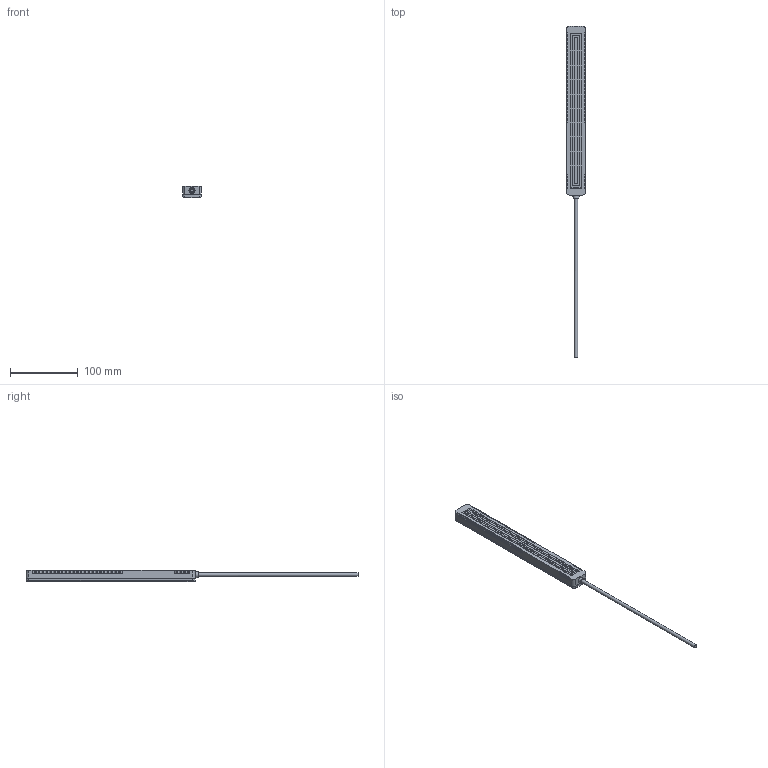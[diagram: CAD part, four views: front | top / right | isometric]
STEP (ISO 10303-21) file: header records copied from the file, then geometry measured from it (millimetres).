
FILE_DESCRIPTION( ( 'STEP AP203' ), '1' );
FILE_NAME( 'p:/temp/worker_204/temp/exporttempdir_2336_267_TEhcx/format_4/KQ1001.stp', '2019-12-02T10:32:10', ( '' ), ( '' ), ' ', 'PARTsolutions', ' ' );
FILE_SCHEMA( ( 'CONFIG_CONTROL_DESIGN' ) );
Length unit declared in the file: millimetre
Products named in the file (1): _KQ1001
Bounding box: 28 x 490.1 x 16.7 mm (x, y, z)
Volume: 116946.5 mm3; surface area: 29037.3 mm2
Topology: 1 solids, 1 shells, 1059 faces, 2844 edges, 1896 vertices
Faces by surface type: plane 873, cylinder 182, torus 2, cone 1, sphere 1
Full cylindrical faces by diameter (mm): 4.9 x1, 5.3 x1
Entity records: 33053 total; most frequent: CARTESIAN_POINT 6085, ORIENTED_EDGE 5670, DIRECTION 5333, EDGE_CURVE 2835, LINE 2437, VECTOR 2437, VERTEX_POINT 1894, AXIS2_PLACEMENT_3D 1448
